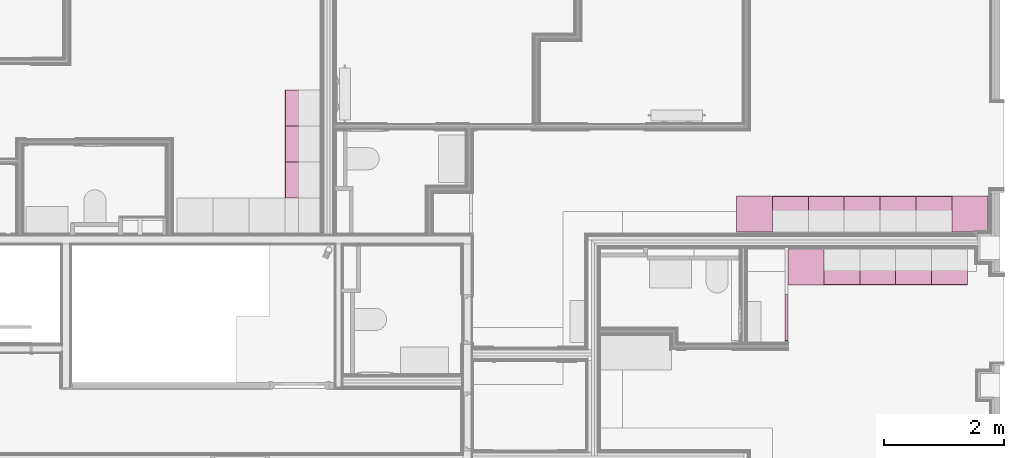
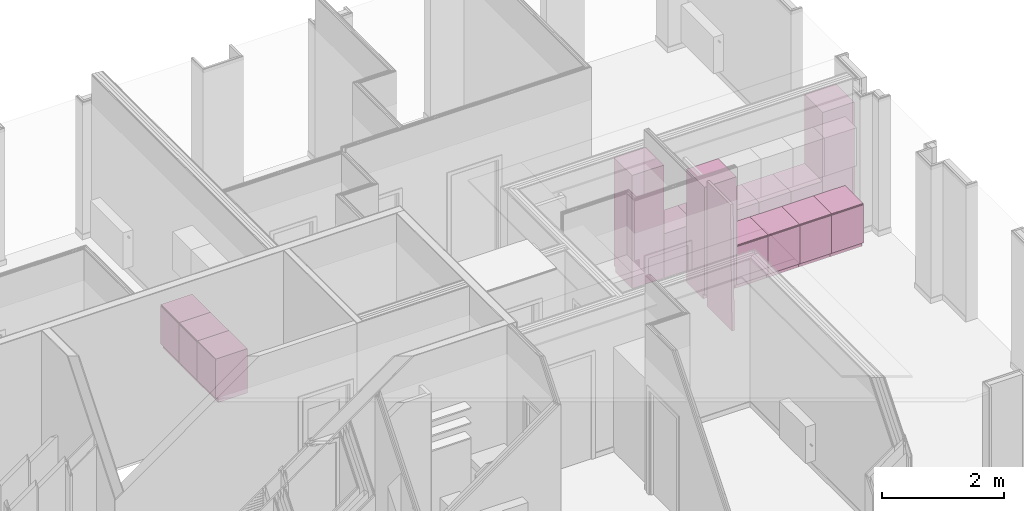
# One storey, part 64 of 64: 16 furnishings.
"""IFC2X3 building model written with IfcOpenShell, lengths in metres."""

from ifc_helpers import new_model, entity, si_unit, converted_unit, derived_unit, money_unit, direction, frame, origin_with_axes, place, context, subcontext, project, spatial, faceted_brep, material, type_object, element, save


model = new_model("IFC2X3")

# Units and contexts
model_context = context("Model", 3, precision=1e-05, world=origin_with_axes(), true_north=direction((0.0, 1.0)))
body_context = subcontext(model_context, "Body", "Model", "MODEL_VIEW", scale=1.0)
ifc_project = project(units=[si_unit("LENGTHUNIT", "METRE"), si_unit("AREAUNIT", "SQUARE_METRE"), si_unit("VOLUMEUNIT", "CUBIC_METRE"), si_unit("ABSORBEDDOSEUNIT", "GRAY"), si_unit("AMOUNTOFSUBSTANCEUNIT", "MOLE"), si_unit("DOSEEQUIVALENTUNIT", "SIEVERT"), si_unit("ELECTRICCAPACITANCEUNIT", "FARAD"), si_unit("ELECTRICCHARGEUNIT", "COULOMB"), si_unit("ELECTRICCONDUCTANCEUNIT", "SIEMENS"), si_unit("ELECTRICCURRENTUNIT", "AMPERE"), si_unit("ELECTRICRESISTANCEUNIT", "OHM"), si_unit("ELECTRICVOLTAGEUNIT", "VOLT"), si_unit("ENERGYUNIT", "JOULE"), si_unit("FORCEUNIT", "NEWTON"), si_unit("FREQUENCYUNIT", "HERTZ"), si_unit("ILLUMINANCEUNIT", "LUX"), si_unit("INDUCTANCEUNIT", "HENRY"), si_unit("LUMINOUSFLUXUNIT", "LUMEN"), si_unit("LUMINOUSINTENSITYUNIT", "CANDELA"), si_unit("MAGNETICFLUXDENSITYUNIT", "TESLA"), si_unit("MAGNETICFLUXUNIT", "WEBER"), si_unit("MASSUNIT", "GRAM"), converted_unit("PLANEANGLEUNIT", "degree", entity("IfcReal", 0.0174532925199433), si_unit("PLANEANGLEUNIT", "RADIAN"), dimensions=[0, 0, 0, 0, 0, 0, 0]), si_unit("POWERUNIT", "WATT"), si_unit("PRESSUREUNIT", "PASCAL"), si_unit("RADIOACTIVITYUNIT", "BECQUEREL"), si_unit("SOLIDANGLEUNIT", "STERADIAN"), si_unit("THERMODYNAMICTEMPERATUREUNIT", "KELVIN"), si_unit("TIMEUNIT", "SECOND"), derived_unit("ACCELERATIONUNIT", [(si_unit("LENGTHUNIT", "METRE"), 1), (si_unit("TIMEUNIT", "SECOND"), -2)]), derived_unit("ANGULARVELOCITYUNIT", [(converted_unit("PLANEANGLEUNIT", "degree", entity("IfcReal", 0.0174532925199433), si_unit("PLANEANGLEUNIT", "RADIAN"), dimensions=[0, 0, 0, 0, 0, 0, 0]), 1), (si_unit("TIMEUNIT", "SECOND"), -1)]), derived_unit("CURVATUREUNIT", [(converted_unit("PLANEANGLEUNIT", "degree", entity("IfcReal", 0.0174532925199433), si_unit("PLANEANGLEUNIT", "RADIAN"), dimensions=[0, 0, 0, 0, 0, 0, 0]), 1), (si_unit("LENGTHUNIT", "METRE"), -1)]), derived_unit("DYNAMICVISCOSITYUNIT", [(si_unit("PRESSUREUNIT", "PASCAL"), 1), (si_unit("TIMEUNIT", "SECOND"), 1)]), derived_unit("HEATFLUXDENSITYUNIT", [(si_unit("POWERUNIT", "WATT"), 1), (si_unit("LENGTHUNIT", "METRE"), -2)]), derived_unit("HEATINGVALUEUNIT", [(si_unit("ENERGYUNIT", "JOULE"), 1), (si_unit("MASSUNIT", "GRAM"), -1)]), derived_unit("INTEGERCOUNTRATEUNIT", [(si_unit("TIMEUNIT", "SECOND"), -1)]), derived_unit("IONCONCENTRATIONUNIT", [(si_unit("MASSUNIT", "GRAM"), 1), (si_unit("VOLUMEUNIT", "CUBIC_METRE"), -1)]), derived_unit("ISOTHERMALMOISTURECAPACITYUNIT", [(si_unit("VOLUMEUNIT", "CUBIC_METRE"), 1), (si_unit("MASSUNIT", "GRAM"), -1)]), derived_unit("KINEMATICVISCOSITYUNIT", [(si_unit("AREAUNIT", "SQUARE_METRE"), 1), (si_unit("TIMEUNIT", "SECOND"), -1)]), derived_unit("LINEARFORCEUNIT", [(si_unit("FORCEUNIT", "NEWTON"), 1), (si_unit("LENGTHUNIT", "METRE"), -1)]), derived_unit("LINEARMOMENTUNIT", [(si_unit("FORCEUNIT", "NEWTON"), 1), (si_unit("LENGTHUNIT", "METRE"), -1)]), derived_unit("LINEARSTIFFNESSUNIT", [(si_unit("FORCEUNIT", "NEWTON"), 1), (si_unit("LENGTHUNIT", "METRE"), -1)]), derived_unit("LINEARVELOCITYUNIT", [(si_unit("LENGTHUNIT", "METRE"), 1), (si_unit("TIMEUNIT", "SECOND"), -1)]), derived_unit("LUMINOUSINTENSITYDISTRIBUTIONUNIT", [(si_unit("LUMINOUSINTENSITYUNIT", "CANDELA"), 1), (si_unit("LUMINOUSFLUXUNIT", "LUMEN"), -1)]), derived_unit("MASSDENSITYUNIT", [(si_unit("MASSUNIT", "GRAM"), 1), (si_unit("VOLUMEUNIT", "CUBIC_METRE"), -1)]), derived_unit("MASSFLOWRATEUNIT", [(si_unit("MASSUNIT", "GRAM"), 1), (si_unit("TIMEUNIT", "SECOND"), -1)]), derived_unit("MASSPERLENGTHUNIT", [(si_unit("MASSUNIT", "GRAM"), 1), (si_unit("LENGTHUNIT", "METRE"), -1)]), derived_unit("MODULUSOFELASTICITYUNIT", [(si_unit("FORCEUNIT", "NEWTON"), 1), (si_unit("AREAUNIT", "SQUARE_METRE"), -1)]), derived_unit("MODULUSOFLINEARSUBGRADEREACTIONUNIT", [(si_unit("FORCEUNIT", "NEWTON"), 1), (si_unit("LENGTHUNIT", "METRE"), -2)]), derived_unit("MODULUSOFROTATIONALSUBGRADEREACTIONUNIT", [(si_unit("FORCEUNIT", "NEWTON"), 1), (si_unit("LENGTHUNIT", "METRE"), 1)]), derived_unit("MODULUSOFSUBGRADEREACTIONUNIT", [(si_unit("FORCEUNIT", "NEWTON"), 1), (si_unit("VOLUMEUNIT", "CUBIC_METRE"), -1)]), derived_unit("MOISTUREDIFFUSIVITYUNIT", [(si_unit("VOLUMEUNIT", "CUBIC_METRE"), 1), (si_unit("TIMEUNIT", "SECOND"), -1)]), derived_unit("MOLECULARWEIGHTUNIT", [(si_unit("MASSUNIT", "GRAM"), 1), (si_unit("AMOUNTOFSUBSTANCEUNIT", "MOLE"), -1)]), derived_unit("PLANARFORCEUNIT", [(si_unit("FORCEUNIT", "NEWTON"), 1), (si_unit("LENGTHUNIT", "METRE"), -2)]), derived_unit("ROTATIONALFREQUENCYUNIT", [(si_unit("TIMEUNIT", "SECOND"), -1)]), derived_unit("ROTATIONALMASSUNIT", [(si_unit("MASSUNIT", "GRAM"), 1), (si_unit("LENGTHUNIT", "METRE"), 2)]), derived_unit("ROTATIONALSTIFFNESSUNIT", [(si_unit("FORCEUNIT", "NEWTON"), 1), (si_unit("LENGTHUNIT", "METRE"), 1), (converted_unit("PLANEANGLEUNIT", "degree", entity("IfcReal", 0.0174532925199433), si_unit("PLANEANGLEUNIT", "RADIAN"), dimensions=[0, 0, 0, 0, 0, 0, 0]), -1)]), derived_unit("SECTIONAREAINTEGRALUNIT", [(si_unit("LENGTHUNIT", "METRE"), 5)]), derived_unit("SECTIONMODULUSUNIT", [(si_unit("LENGTHUNIT", "METRE"), 3)]), derived_unit("SHEARMODULUSUNIT", [(si_unit("FORCEUNIT", "NEWTON"), 1), (si_unit("AREAUNIT", "SQUARE_METRE"), -1)]), derived_unit("SOUNDPOWERUNIT", [(si_unit("ENERGYUNIT", "JOULE"), 1), (si_unit("TIMEUNIT", "SECOND"), -1)]), derived_unit("SPECIFICHEATCAPACITYUNIT", [(si_unit("FORCEUNIT", "NEWTON"), 1), (si_unit("MASSUNIT", "GRAM"), -1), (si_unit("THERMODYNAMICTEMPERATUREUNIT", "KELVIN"), -1)]), derived_unit("TEMPERATUREGRADIENTUNIT", [(si_unit("THERMODYNAMICTEMPERATUREUNIT", "KELVIN"), 1), (si_unit("LENGTHUNIT", "METRE"), -1)]), derived_unit("THERMALADMITTANCEUNIT", [(si_unit("POWERUNIT", "WATT"), 1), (si_unit("AREAUNIT", "SQUARE_METRE"), -1), (si_unit("THERMODYNAMICTEMPERATUREUNIT", "KELVIN"), -1)]), derived_unit("THERMALCONDUCTANCEUNIT", [(si_unit("POWERUNIT", "WATT"), 1), (si_unit("LENGTHUNIT", "METRE"), -1), (si_unit("THERMODYNAMICTEMPERATUREUNIT", "KELVIN"), -1)]), derived_unit("THERMALEXPANSIONCOEFFICIENTUNIT", [(si_unit("THERMODYNAMICTEMPERATUREUNIT", "KELVIN"), -1)]), derived_unit("THERMALRESISTANCEUNIT", [(si_unit("AREAUNIT", "SQUARE_METRE"), 1), (si_unit("POWERUNIT", "WATT"), -1)]), derived_unit("THERMALTRANSMITTANCEUNIT", [(si_unit("POWERUNIT", "WATT"), 1), (si_unit("AREAUNIT", "SQUARE_METRE"), -1), (si_unit("THERMODYNAMICTEMPERATUREUNIT", "KELVIN"), -1)]), derived_unit("TORQUEUNIT", [(si_unit("FORCEUNIT", "NEWTON"), 1), (si_unit("LENGTHUNIT", "METRE"), 1)]), derived_unit("VAPORPERMEABILITYUNIT", [(si_unit("MASSUNIT", "GRAM"), 1), (si_unit("TIMEUNIT", "SECOND"), -1)]), derived_unit("VOLUMETRICFLOWRATEUNIT", [(si_unit("VOLUMEUNIT", "CUBIC_METRE"), 1), (si_unit("TIMEUNIT", "SECOND"), -1)]), derived_unit("WARPINGCONSTANTUNIT", [(si_unit("LENGTHUNIT", "METRE"), 6)]), derived_unit("WARPINGMOMENTUNIT", [(si_unit("FORCEUNIT", "NEWTON"), 1), (si_unit("LENGTHUNIT", "METRE"), 2)]), money_unit("GBP")], contexts=[model_context])

# Site, building, storey, space
site_placement = place(None, origin_with_axes())
site = spatial("IfcSite", under=ifc_project, at=site_placement, Name="Site", CompositionType="ELEMENT")
building_placement = place(site_placement, origin_with_axes())
building = spatial("IfcBuilding", under=site, at=building_placement, Name="Building01", CompositionType="ELEMENT")
storey_placement = place(building_placement, frame((0.0, 0.0, 8.64), z_axis=(0.0, 0.0, 1.0), x_axis=(1.0, 0.0, 0.0)))
storey = spatial("IfcBuildingStorey", under=building, at=storey_placement, Name="2F", CompositionType="ELEMENT", Elevation=8.64)
space_1_placement = place(storey_placement, frame((15.83, 8.82, 0.017975), z_axis=(0.0, 0.0, 1.0), x_axis=(0.0, -1.0, 0.0)))
space_1 = spatial("IfcSpace", under=storey, at=space_1_placement, Name="09", CompositionType="ELEMENT", InteriorOrExteriorSpace="NOTDEFINED")

# Furnishing
ifc_material = material(Name="A_BSUK_StorageScreening_Ffe")
furniture_type_1 = type_object("IfcFurnitureType", Name="SHE_A-Kitchenunit-Tall")
placement = place(storey_placement, frame((0.0, 0.0, -8.64), z_axis=(0.0, 0.0, 1.0), x_axis=(1.0, 0.0, 0.0)))
element("IfcFurnishingElement", 1, at=placement, inside=space_1, type_object=furniture_type_1, material=ifc_material, Name="09", ObjectType="SHE_A-Kitchenunit-Tall", context=body_context, shape_type="Brep", body=[
    faceted_brep([(23.009999, 8.863, 10.904), (22.409999, 8.863, 10.904), (22.409999, 8.863, 8.644), (23.009999, 8.863, 8.644), (22.409999, 9.463, 10.904), (22.409999, 9.463, 8.744), (22.409999, 9.413, 8.744), (22.409999, 9.413, 8.644), (23.009999, 9.413, 8.744), (23.009999, 9.413, 8.644), (23.009999, 9.463, 8.744), (23.009999, 9.463, 10.904)], [[[0, 1, 2, 3]], [[1, 4, 5, 6, 7, 2]], [[8, 9, 7, 6]], [[8, 10, 11, 0, 3, 9]], [[2, 7, 9, 3]], [[5, 4, 11, 10]], [[11, 4, 1, 0]], [[6, 5, 10, 8]]]),
])

# Space
space_2_placement = place(storey_placement, frame((22.624794, 8.82, 0.017975), z_axis=(0.0, 0.0, 1.0), x_axis=(1.0, 0.0, 0.0)))
space_2 = spatial("IfcSpace", under=storey, at=space_2_placement, Name="k/d/l", CompositionType="ELEMENT", InteriorOrExteriorSpace="NOTDEFINED")

# Furnishing
element("IfcFurnishingElement", 2, at=placement, inside=space_2, type_object=furniture_type_1, material=ifc_material, Name="09", ObjectType="SHE_A-Kitchenunit-Tall", context=body_context, shape_type="Brep", body=[
    faceted_brep([(26.609999, 8.863, 10.904), (26.009999, 8.863, 10.904), (26.009999, 8.863, 8.644), (26.609999, 8.863, 8.644), (26.009999, 9.463, 10.904), (26.009999, 9.463, 8.744), (26.009999, 9.413, 8.744), (26.009999, 9.413, 8.644), (26.609999, 9.413, 8.744), (26.609999, 9.413, 8.644), (26.609999, 9.463, 8.744), (26.609999, 9.463, 10.904)], [[[0, 1, 2, 3]], [[1, 4, 5, 6, 7, 2]], [[8, 9, 7, 6]], [[8, 10, 11, 0, 3, 9]], [[2, 7, 9, 3]], [[5, 4, 11, 10]], [[11, 4, 1, 0]], [[6, 5, 10, 8]]]),
])

# Space
space_3_placement = place(storey_placement, frame((20.122661, 5.205, 0.017975), z_axis=(0.0, 0.0, 1.0), x_axis=(1.0, 0.0, 0.0)))
space_3 = spatial("IfcSpace", under=storey, at=space_3_placement, Name="10", CompositionType="ELEMENT", InteriorOrExteriorSpace="NOTDEFINED")

# Furnishing
element("IfcFurnishingElement", 3, at=placement, inside=space_3, type_object=furniture_type_1, material=ifc_material, Name="10", ObjectType="SHE_A-Kitchenunit-Tall", context=body_context, shape_type="Brep", body=[
    faceted_brep([(23.871529, 8.58, 8.644), (23.271529, 8.58, 8.644), (23.271529, 8.58, 10.904), (23.871529, 8.58, 10.904), (23.271529, 8.03, 8.644), (23.271529, 8.03, 8.744), (23.271529, 7.98, 8.744), (23.271529, 7.98, 10.904), (23.871529, 8.03, 8.644), (23.871529, 8.03, 8.744), (23.871529, 7.98, 10.904), (23.871529, 7.98, 8.744)], [[[0, 1, 2, 3]], [[1, 4, 5, 6, 7, 2]], [[5, 4, 8, 9]], [[8, 0, 3, 10, 11, 9]], [[0, 8, 4, 1]], [[11, 10, 7, 6]], [[3, 2, 7, 10]], [[9, 11, 6, 5]]]),
])

# Space
space_4_placement = place(storey_placement, frame((11.275, 10.415, 0.017975), z_axis=(0.0, 0.0, 1.0), x_axis=(1.0, 0.0, 0.0)))
space_4 = spatial("IfcSpace", under=storey, at=space_4_placement, Name="k/d/l", CompositionType="ELEMENT", InteriorOrExteriorSpace="NOTDEFINED")

# Furnishings
furniture_type_2 = type_object("IfcFurnitureType", Name="SHE_A-Kitchenunit-Base")
element("IfcFurnishingElement", 4, at=placement, inside=space_4, type_object=furniture_type_2, material=ifc_material, Name="15", ObjectType="SHE_A-Kitchenunit-Base", context=body_context, shape_type="Brep", body=[
    faceted_brep([(15.468132, 10.035, 9.529), (15.468132, 9.435, 9.529), (15.468132, 9.435, 8.644), (15.468132, 10.035, 8.644), (14.875203, 9.435, 9.529), (14.868132, 9.435, 9.521929), (14.868132, 9.435, 9.511071), (14.875203, 9.435, 9.504), (14.868132, 9.435, 9.504), (14.868132, 9.435, 8.744), (14.918132, 9.435, 8.744), (14.918132, 9.435, 8.644), (14.918132, 10.035, 8.744), (14.918132, 10.035, 8.644), (14.868132, 10.035, 8.744), (14.868132, 10.035, 9.504), (14.875203, 10.035, 9.504), (14.868132, 10.035, 9.511071), (14.868132, 10.035, 9.521929), (14.875203, 10.035, 9.529)], [[[0, 1, 2, 3]], [[1, 4, 5, 6, 7, 8, 9, 10, 11, 2]], [[12, 13, 11, 10]], [[12, 14, 15, 16, 17, 18, 19, 0, 3, 13]], [[2, 11, 13, 3]], [[7, 16, 15, 8]], [[9, 8, 15, 14]], [[10, 9, 14, 12]], [[5, 18, 17, 6]], [[19, 4, 1, 0]], [[6, 17, 16, 7]], [[4, 19, 18, 5]]]),
])
element("IfcFurnishingElement", 5, at=placement, inside=space_4, type_object=furniture_type_2, material=ifc_material, Name="15", ObjectType="SHE_A-Kitchenunit-Base", context=body_context, shape_type="Brep", body=[
    faceted_brep([(15.468132, 10.635, 9.529), (15.468132, 10.035, 9.529), (15.468132, 10.035, 8.644), (15.468132, 10.635, 8.644), (14.875203, 10.035, 9.529), (14.868132, 10.035, 9.521929), (14.868132, 10.035, 9.511071), (14.875203, 10.035, 9.504), (14.868132, 10.035, 9.504), (14.868132, 10.035, 8.744), (14.918132, 10.035, 8.744), (14.918132, 10.035, 8.644), (14.918132, 10.635, 8.744), (14.918132, 10.635, 8.644), (14.868132, 10.635, 8.744), (14.868132, 10.635, 9.504), (14.875203, 10.635, 9.504), (14.868132, 10.635, 9.511071), (14.868132, 10.635, 9.521929), (14.875203, 10.635, 9.529)], [[[0, 1, 2, 3]], [[1, 4, 5, 6, 7, 8, 9, 10, 11, 2]], [[12, 13, 11, 10]], [[12, 14, 15, 16, 17, 18, 19, 0, 3, 13]], [[2, 11, 13, 3]], [[7, 16, 15, 8]], [[9, 8, 15, 14]], [[10, 9, 14, 12]], [[5, 18, 17, 6]], [[19, 4, 1, 0]], [[6, 17, 16, 7]], [[4, 19, 18, 5]]]),
])
element("IfcFurnishingElement", 6, at=placement, inside=space_4, type_object=furniture_type_2, material=ifc_material, Name="15", ObjectType="SHE_A-Kitchenunit-Base", context=body_context, shape_type="Brep", body=[
    faceted_brep([(15.468132, 11.235, 9.529), (15.468132, 10.635, 9.529), (15.468132, 10.635, 8.644), (15.468132, 11.235, 8.644), (14.875203, 10.635, 9.529), (14.868132, 10.635, 9.521929), (14.868132, 10.635, 9.511071), (14.875203, 10.635, 9.504), (14.868132, 10.635, 9.504), (14.868132, 10.635, 8.744), (14.918132, 10.635, 8.744), (14.918132, 10.635, 8.644), (14.918132, 11.235, 8.744), (14.918132, 11.235, 8.644), (14.868132, 11.235, 8.744), (14.868132, 11.235, 9.504), (14.875203, 11.235, 9.504), (14.868132, 11.235, 9.511071), (14.868132, 11.235, 9.521929), (14.875203, 11.235, 9.529)], [[[0, 1, 2, 3]], [[1, 4, 5, 6, 7, 8, 9, 10, 11, 2]], [[12, 13, 11, 10]], [[12, 14, 15, 16, 17, 18, 19, 0, 3, 13]], [[2, 11, 13, 3]], [[7, 16, 15, 8]], [[9, 8, 15, 14]], [[10, 9, 14, 12]], [[5, 18, 17, 6]], [[19, 4, 1, 0]], [[6, 17, 16, 7]], [[4, 19, 18, 5]]]),
])
element("IfcFurnishingElement", 7, at=placement, inside=space_2, type_object=furniture_type_2, material=ifc_material, Name="09", ObjectType="SHE_A-Kitchenunit-Base", context=body_context, shape_type="Brep", body=[
    faceted_brep([(23.609999, 8.863, 9.529), (23.009999, 8.863, 9.529), (23.009999, 8.863, 8.644), (23.609999, 8.863, 8.644), (23.009999, 9.455929, 9.529), (23.009999, 9.463, 9.521929), (23.009999, 9.463, 9.511071), (23.009999, 9.455929, 9.504), (23.009999, 9.463, 9.504), (23.009999, 9.463, 8.744), (23.009999, 9.413, 8.744), (23.009999, 9.413, 8.644), (23.609999, 9.413, 8.744), (23.609999, 9.413, 8.644), (23.609999, 9.463, 8.744), (23.609999, 9.463, 9.504), (23.609999, 9.455929, 9.504), (23.609999, 9.463, 9.511071), (23.609999, 9.463, 9.521929), (23.609999, 9.455929, 9.529)], [[[0, 1, 2, 3]], [[1, 4, 5, 6, 7, 8, 9, 10, 11, 2]], [[12, 13, 11, 10]], [[12, 14, 15, 16, 17, 18, 19, 0, 3, 13]], [[2, 11, 13, 3]], [[7, 16, 15, 8]], [[9, 8, 15, 14]], [[10, 9, 14, 12]], [[5, 18, 17, 6]], [[19, 4, 1, 0]], [[6, 17, 16, 7]], [[4, 19, 18, 5]]]),
])
element("IfcFurnishingElement", 8, at=placement, inside=space_2, type_object=furniture_type_2, material=ifc_material, Name="09", ObjectType="SHE_A-Kitchenunit-Base", context=body_context, shape_type="Brep", body=[
    faceted_brep([(24.209999, 8.863, 9.529), (23.609999, 8.863, 9.529), (23.609999, 8.863, 8.644), (24.209999, 8.863, 8.644), (23.609999, 9.455929, 9.529), (23.609999, 9.463, 9.521929), (23.609999, 9.463, 9.511071), (23.609999, 9.455929, 9.504), (23.609999, 9.463, 9.504), (23.609999, 9.463, 8.744), (23.609999, 9.413, 8.744), (23.609999, 9.413, 8.644), (24.209999, 9.413, 8.744), (24.209999, 9.413, 8.644), (24.209999, 9.463, 8.744), (24.209999, 9.463, 9.504), (24.209999, 9.455929, 9.504), (24.209999, 9.463, 9.511071), (24.209999, 9.463, 9.521929), (24.209999, 9.455929, 9.529)], [[[0, 1, 2, 3]], [[1, 4, 5, 6, 7, 8, 9, 10, 11, 2]], [[12, 13, 11, 10]], [[12, 14, 15, 16, 17, 18, 19, 0, 3, 13]], [[2, 11, 13, 3]], [[7, 16, 15, 8]], [[9, 8, 15, 14]], [[10, 9, 14, 12]], [[5, 18, 17, 6]], [[19, 4, 1, 0]], [[6, 17, 16, 7]], [[4, 19, 18, 5]]]),
])
element("IfcFurnishingElement", 9, at=placement, inside=space_2, type_object=furniture_type_2, material=ifc_material, Name="09", ObjectType="SHE_A-Kitchenunit-Base", context=body_context, shape_type="Brep", body=[
    faceted_brep([(24.809999, 8.863, 9.529), (24.209999, 8.863, 9.529), (24.209999, 8.863, 8.644), (24.809999, 8.863, 8.644), (24.209999, 9.455929, 9.529), (24.209999, 9.463, 9.521929), (24.209999, 9.463, 9.511071), (24.209999, 9.455929, 9.504), (24.209999, 9.463, 9.504), (24.209999, 9.463, 8.744), (24.209999, 9.413, 8.744), (24.209999, 9.413, 8.644), (24.809999, 9.413, 8.744), (24.809999, 9.413, 8.644), (24.809999, 9.463, 8.744), (24.809999, 9.463, 9.504), (24.809999, 9.455929, 9.504), (24.809999, 9.463, 9.511071), (24.809999, 9.463, 9.521929), (24.809999, 9.455929, 9.529)], [[[0, 1, 2, 3]], [[1, 4, 5, 6, 7, 8, 9, 10, 11, 2]], [[12, 13, 11, 10]], [[12, 14, 15, 16, 17, 18, 19, 0, 3, 13]], [[2, 11, 13, 3]], [[7, 16, 15, 8]], [[9, 8, 15, 14]], [[10, 9, 14, 12]], [[5, 18, 17, 6]], [[19, 4, 1, 0]], [[6, 17, 16, 7]], [[4, 19, 18, 5]]]),
])
element("IfcFurnishingElement", 10, at=placement, inside=space_2, type_object=furniture_type_2, material=ifc_material, Name="09", ObjectType="SHE_A-Kitchenunit-Base", context=body_context, shape_type="Brep", body=[
    faceted_brep([(25.409999, 8.863, 9.529), (24.809999, 8.863, 9.529), (24.809999, 8.863, 8.644), (25.409999, 8.863, 8.644), (24.809999, 9.455929, 9.529), (24.809999, 9.463, 9.521929), (24.809999, 9.463, 9.511071), (24.809999, 9.455929, 9.504), (24.809999, 9.463, 9.504), (24.809999, 9.463, 8.744), (24.809999, 9.413, 8.744), (24.809999, 9.413, 8.644), (25.409999, 9.413, 8.744), (25.409999, 9.413, 8.644), (25.409999, 9.463, 8.744), (25.409999, 9.463, 9.504), (25.409999, 9.455929, 9.504), (25.409999, 9.463, 9.511071), (25.409999, 9.463, 9.521929), (25.409999, 9.455929, 9.529)], [[[0, 1, 2, 3]], [[1, 4, 5, 6, 7, 8, 9, 10, 11, 2]], [[12, 13, 11, 10]], [[12, 14, 15, 16, 17, 18, 19, 0, 3, 13]], [[2, 11, 13, 3]], [[7, 16, 15, 8]], [[9, 8, 15, 14]], [[10, 9, 14, 12]], [[5, 18, 17, 6]], [[19, 4, 1, 0]], [[6, 17, 16, 7]], [[4, 19, 18, 5]]]),
])
element("IfcFurnishingElement", 11, at=placement, inside=space_2, type_object=furniture_type_2, material=ifc_material, Name="09", ObjectType="SHE_A-Kitchenunit-Base", context=body_context, shape_type="Brep", body=[
    faceted_brep([(26.009999, 8.863, 9.529), (25.409999, 8.863, 9.529), (25.409999, 8.863, 8.644), (26.009999, 8.863, 8.644), (25.409999, 9.455929, 9.529), (25.409999, 9.463, 9.521929), (25.409999, 9.463, 9.511071), (25.409999, 9.455929, 9.504), (25.409999, 9.463, 9.504), (25.409999, 9.463, 8.744), (25.409999, 9.413, 8.744), (25.409999, 9.413, 8.644), (26.009999, 9.413, 8.744), (26.009999, 9.413, 8.644), (26.009999, 9.463, 8.744), (26.009999, 9.463, 9.504), (26.009999, 9.455929, 9.504), (26.009999, 9.463, 9.511071), (26.009999, 9.463, 9.521929), (26.009999, 9.455929, 9.529)], [[[0, 1, 2, 3]], [[1, 4, 5, 6, 7, 8, 9, 10, 11, 2]], [[12, 13, 11, 10]], [[12, 14, 15, 16, 17, 18, 19, 0, 3, 13]], [[2, 11, 13, 3]], [[7, 16, 15, 8]], [[9, 8, 15, 14]], [[10, 9, 14, 12]], [[5, 18, 17, 6]], [[19, 4, 1, 0]], [[6, 17, 16, 7]], [[4, 19, 18, 5]]]),
])
element("IfcFurnishingElement", 12, at=placement, inside=space_3, type_object=furniture_type_2, material=ifc_material, Name="10", ObjectType="SHE_A-Kitchenunit-Base", context=body_context, shape_type="Brep", body=[
    faceted_brep([(25.671529, 8.58, 8.644), (25.071529, 8.58, 8.644), (25.071529, 8.58, 9.529), (25.671529, 8.58, 9.529), (25.071529, 8.03, 8.644), (25.071529, 8.03, 8.744), (25.071529, 7.98, 8.744), (25.071529, 7.98, 9.504), (25.071529, 7.987071, 9.504), (25.071529, 7.98, 9.511071), (25.071529, 7.98, 9.521929), (25.071529, 7.987071, 9.529), (25.671529, 8.03, 8.644), (25.671529, 8.03, 8.744), (25.671529, 7.987071, 9.529), (25.671529, 7.98, 9.521929), (25.671529, 7.98, 9.511071), (25.671529, 7.987071, 9.504), (25.671529, 7.98, 9.504), (25.671529, 7.98, 8.744)], [[[0, 1, 2, 3]], [[1, 4, 5, 6, 7, 8, 9, 10, 11, 2]], [[5, 4, 12, 13]], [[12, 0, 3, 14, 15, 16, 17, 18, 19, 13]], [[0, 12, 4, 1]], [[7, 18, 17, 8]], [[19, 18, 7, 6]], [[13, 19, 6, 5]], [[9, 16, 15, 10]], [[3, 2, 11, 14]], [[8, 17, 16, 9]], [[10, 15, 14, 11]]]),
])
element("IfcFurnishingElement", 13, at=placement, inside=space_3, type_object=furniture_type_2, material=ifc_material, Name="10", ObjectType="SHE_A-Kitchenunit-Base", context=body_context, shape_type="Brep", body=[
    faceted_brep([(25.071529, 8.58, 8.644), (24.471529, 8.58, 8.644), (24.471529, 8.58, 9.529), (25.071529, 8.58, 9.529), (24.471529, 8.03, 8.644), (24.471529, 8.03, 8.744), (24.471529, 7.98, 8.744), (24.471529, 7.98, 9.504), (24.471529, 7.987071, 9.504), (24.471529, 7.98, 9.511071), (24.471529, 7.98, 9.521929), (24.471529, 7.987071, 9.529), (25.071529, 8.03, 8.644), (25.071529, 8.03, 8.744), (25.071529, 7.987071, 9.529), (25.071529, 7.98, 9.521929), (25.071529, 7.98, 9.511071), (25.071529, 7.987071, 9.504), (25.071529, 7.98, 9.504), (25.071529, 7.98, 8.744)], [[[0, 1, 2, 3]], [[1, 4, 5, 6, 7, 8, 9, 10, 11, 2]], [[5, 4, 12, 13]], [[12, 0, 3, 14, 15, 16, 17, 18, 19, 13]], [[0, 12, 4, 1]], [[7, 18, 17, 8]], [[19, 18, 7, 6]], [[13, 19, 6, 5]], [[9, 16, 15, 10]], [[3, 2, 11, 14]], [[8, 17, 16, 9]], [[10, 15, 14, 11]]]),
])
element("IfcFurnishingElement", 14, at=placement, inside=space_3, type_object=furniture_type_2, material=ifc_material, Name="10", ObjectType="SHE_A-Kitchenunit-Base", context=body_context, shape_type="Brep", body=[
    faceted_brep([(24.471529, 8.58, 8.644), (23.871529, 8.58, 8.644), (23.871529, 8.58, 9.529), (24.471529, 8.58, 9.529), (23.871529, 8.03, 8.644), (23.871529, 8.03, 8.744), (23.871529, 7.98, 8.744), (23.871529, 7.98, 9.504), (23.871529, 7.987071, 9.504), (23.871529, 7.98, 9.511071), (23.871529, 7.98, 9.521929), (23.871529, 7.987071, 9.529), (24.471529, 8.03, 8.644), (24.471529, 8.03, 8.744), (24.471529, 7.987071, 9.529), (24.471529, 7.98, 9.521929), (24.471529, 7.98, 9.511071), (24.471529, 7.987071, 9.504), (24.471529, 7.98, 9.504), (24.471529, 7.98, 8.744)], [[[0, 1, 2, 3]], [[1, 4, 5, 6, 7, 8, 9, 10, 11, 2]], [[5, 4, 12, 13]], [[12, 0, 3, 14, 15, 16, 17, 18, 19, 13]], [[0, 12, 4, 1]], [[7, 18, 17, 8]], [[19, 18, 7, 6]], [[13, 19, 6, 5]], [[9, 16, 15, 10]], [[3, 2, 11, 14]], [[8, 17, 16, 9]], [[10, 15, 14, 11]]]),
])
element("IfcFurnishingElement", 15, at=placement, inside=space_3, type_object=furniture_type_2, material=ifc_material, Name="10", ObjectType="SHE_A-Kitchenunit-Base", context=body_context, shape_type="Brep", body=[
    faceted_brep([(26.271529, 8.58, 8.644), (25.671529, 8.58, 8.644), (25.671529, 8.58, 9.529), (26.271529, 8.58, 9.529), (25.671529, 8.03, 8.644), (25.671529, 8.03, 8.744), (25.671529, 7.98, 8.744), (25.671529, 7.98, 9.504), (25.671529, 7.987071, 9.504), (25.671529, 7.98, 9.511071), (25.671529, 7.98, 9.521929), (25.671529, 7.987071, 9.529), (26.271529, 8.03, 8.644), (26.271529, 8.03, 8.744), (26.271529, 7.987071, 9.529), (26.271529, 7.98, 9.521929), (26.271529, 7.98, 9.511071), (26.271529, 7.987071, 9.504), (26.271529, 7.98, 9.504), (26.271529, 7.98, 8.744)], [[[0, 1, 2, 3]], [[1, 4, 5, 6, 7, 8, 9, 10, 11, 2]], [[5, 4, 12, 13]], [[12, 0, 3, 14, 15, 16, 17, 18, 19, 13]], [[0, 12, 4, 1]], [[7, 18, 17, 8]], [[19, 18, 7, 6]], [[13, 19, 6, 5]], [[9, 16, 15, 10]], [[3, 2, 11, 14]], [[8, 17, 16, 9]], [[10, 15, 14, 11]]]),
])
furniture_type_3 = type_object("IfcFurnitureType", Name="SHE_A-UtilityCupbord")
element("IfcFurnishingElement", 16, at=placement, inside=space_3, type_object=furniture_type_3, material=ifc_material, Name="10", ObjectType="SHE_A-UtilityCupbord", context=body_context, shape_type="Brep", body=[
    faceted_brep([(23.271529, 7.8225, 8.64), (23.271529, 7.0, 8.64), (23.221529, 7.0, 8.64), (23.221529, 7.8225, 8.64), (23.221529, 7.8225, 11.14), (23.221529, 7.05, 11.14), (23.271529, 7.05, 11.14), (23.271529, 7.8225, 11.14)], [[[0, 1, 2, 3]], [[4, 5, 6, 7]], [[0, 3, 4, 7]], [[1, 0, 7, 6]], [[2, 1, 6, 5]], [[4, 3, 2, 5]]]),
])

save(model, "model.ifc")
